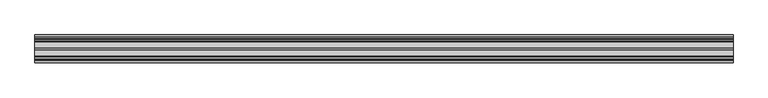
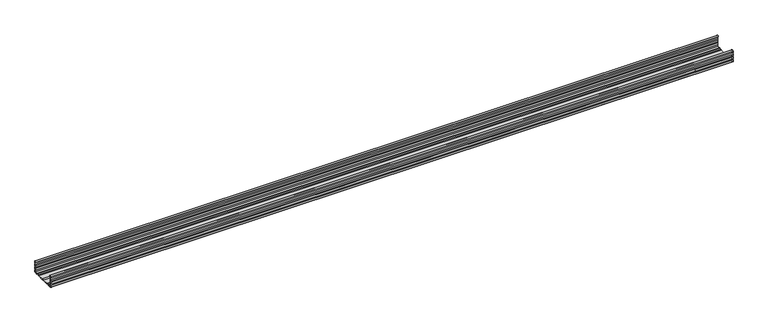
"""IFC4 building model written with IfcOpenShell, lengths in millimetres: proxy geometry, КНАУФ_Профильl ПП 60x27 : КНАУФ_Профильl ПП 60x27."""

from ifc_helpers import new_model, si_unit, point, frame, frame_2d, origin, origin_2d, place, context, project, spatial, polyline, circle_curve, trimmed, segment, composite_curve, outline, extrude, source, transform, mapped, element, save


def mechanical_equipment_1e4b647e(model_context):
    return source(origin(), model_context, "Body", "SweptSolid", [
        extrude(outline(composite_curve([segment(polyline([(26.6623525, 24.93), (25.8623525, 24.93)]), True, "CONTINUOUS"), segment(trimmed(circle_curve(frame_2d((27.9311762, 24.93)), 2.0688238), [point((25.8623525, 24.93))], [point((30.0, 24.93))], False, "CARTESIAN"), True, "CONTINUOUS"), segment(polyline([(30.0, 24.93), (30.0, 21.5430149)]), True, "CONTINUOUS"), segment(trimmed(circle_curve(frame_2d((30.0, 20.25)), 1.2930149), [point((30.0, 21.5430149))], [point((30.0, 18.9569851))], True, "CARTESIAN"), True, "CONTINUOUS"), segment(polyline([(30.0, 18.9569851), (30.0, 14.7930149)]), True, "CONTINUOUS"), segment(trimmed(circle_curve(frame_2d((30.0, 13.5)), 1.2930149), [point((30.0, 14.7930149))], [point((30.0, 12.2069851))], True, "CARTESIAN"), True, "CONTINUOUS"), segment(polyline([(30.0, 12.2069851), (30.0, 8.0430149)]), True, "CONTINUOUS"), segment(trimmed(circle_curve(frame_2d((30.0, 6.75)), 1.2930149), [point((30.0, 8.0430149))], [point((30.0, 5.4569851))], True, "CARTESIAN"), True, "CONTINUOUS"), segment(polyline([(30.0, 5.4569851), (30.0, 1.2930149)]), True, "CONTINUOUS"), segment(trimmed(circle_curve(frame_2d((28.7069851, 1.2930149)), 1.2930149), [point((30.0, 1.2930149))], [point((28.7069851, 0.0))], False, "CARTESIAN"), True, "CONTINUOUS"), segment(polyline([(28.7069851, 0.0), (22.0489776, 0.0)]), True, "CONTINUOUS"), segment(trimmed(circle_curve(frame_2d((20.7668677, -0.1675758)), 1.2930149), [point((22.0489776, 0.0))], [point((20.7668677, 1.1254391))], True, "CARTESIAN"), True, "CONTINUOUS"), segment(polyline([(20.7668677, 1.1254391), (17.1471022, 1.1254391)]), True, "CONTINUOUS"), segment(trimmed(circle_curve(frame_2d((17.1471022, -0.1675758)), 1.2930149), [point((17.1471022, 1.1254391))], [point((15.8649924, 0.0))], True, "CARTESIAN"), True, "CONTINUOUS"), segment(polyline([(15.8649924, 0.0), (1.2930149, 0.0)]), True, "CONTINUOUS"), segment(trimmed(circle_curve(origin_2d(), 1.2930149), [point((1.2930149, 0.0))], [point((-1.2930149, 0.0))], True, "CARTESIAN"), True, "CONTINUOUS"), segment(polyline([(-1.2930149, 0.0), (-15.772435, 0.0)]), True, "CONTINUOUS"), segment(trimmed(circle_curve(frame_2d((-17.1471022, -0.2768239)), 1.402263), [point((-15.772435, 0.0))], [point((-17.1471022, 1.1254391))], True, "CARTESIAN"), True, "CONTINUOUS"), segment(polyline([(-17.1471022, 1.1254391), (-20.7668677, 1.1254391)]), True, "CONTINUOUS"), segment(trimmed(circle_curve(frame_2d((-20.7668677, -0.1675758)), 1.2930149), [point((-20.7668677, 1.1254391))], [point((-22.0489776, 0.0))], True, "CARTESIAN"), True, "CONTINUOUS"), segment(polyline([(-22.0489776, 0.0), (-28.7069851, 0.0)]), True, "CONTINUOUS"), segment(trimmed(circle_curve(frame_2d((-28.7069851, 1.2930149)), 1.2930149), [point((-28.7069851, 0.0))], [point((-30.0, 1.2930149))], False, "CARTESIAN"), True, "CONTINUOUS"), segment(polyline([(-30.0, 1.2930149), (-30.0, 5.4569851)]), True, "CONTINUOUS"), segment(trimmed(circle_curve(frame_2d((-30.0, 6.75)), 1.2930149), [point((-30.0, 5.4569851))], [point((-30.0, 8.0430149))], True, "CARTESIAN"), True, "CONTINUOUS"), segment(polyline([(-30.0, 8.0430149), (-30.0, 12.2069851)]), True, "CONTINUOUS"), segment(trimmed(circle_curve(frame_2d((-30.0, 13.5)), 1.2930149), [point((-30.0, 12.2069851))], [point((-30.0, 14.7930149))], True, "CARTESIAN"), True, "CONTINUOUS"), segment(polyline([(-30.0, 14.7930149), (-30.0, 18.9569851)]), True, "CONTINUOUS"), segment(trimmed(circle_curve(frame_2d((-30.0, 20.25)), 1.2930149), [point((-30.0, 18.9569851))], [point((-30.0, 21.5430149))], True, "CARTESIAN"), True, "CONTINUOUS"), segment(polyline([(-30.0, 21.5430149), (-30.0, 24.9997726)]), True, "CONTINUOUS"), segment(trimmed(circle_curve(frame_2d((-27.9311762, 24.93)), 2.07), [point((-30.0, 24.9997726))], [point((-25.8611762, 24.93))], False, "CARTESIAN"), True, "CONTINUOUS"), segment(polyline([(-25.8611762, 24.93), (-26.6611762, 24.93)]), True, "CONTINUOUS"), segment(trimmed(circle_curve(frame_2d((-27.9311762, 24.93)), 1.27), [point((-26.6611762, 24.93))], [point((-29.2, 24.9846466))], True, "CARTESIAN"), True, "CONTINUOUS"), segment(polyline([(-29.2, 24.9846466), (-29.2, 22.1840918)]), True, "CONTINUOUS"), segment(trimmed(circle_curve(frame_2d((-30.0, 20.25)), 2.0930149), [point((-29.2, 22.1840918))], [point((-29.2, 18.3159082))], False, "CARTESIAN"), True, "CONTINUOUS"), segment(polyline([(-29.2, 18.3159082), (-29.2, 15.4340918)]), True, "CONTINUOUS"), segment(trimmed(circle_curve(frame_2d((-30.0, 13.5)), 2.0930149), [point((-29.2, 15.4340918))], [point((-29.2, 11.5659082))], False, "CARTESIAN"), True, "CONTINUOUS"), segment(polyline([(-29.2, 11.5659082), (-29.2, 8.6840918)]), True, "CONTINUOUS"), segment(trimmed(circle_curve(frame_2d((-30.0, 6.75)), 2.0930149), [point((-29.2, 8.6840918))], [point((-29.2, 4.8159082))], False, "CARTESIAN"), True, "CONTINUOUS"), segment(polyline([(-29.2, 4.8159082), (-29.2, 0.8), (-22.6228064, 0.8)]), True, "CONTINUOUS"), segment(trimmed(circle_curve(frame_2d((-20.7668677, -0.1675758)), 2.0930149), [point((-22.6228064, 0.8))], [point((-20.7668677, 1.9254391))], False, "CARTESIAN"), True, "CONTINUOUS"), segment(polyline([(-20.7668677, 1.9254391), (-17.1471022, 1.9254391)]), True, "CONTINUOUS"), segment(trimmed(circle_curve(frame_2d((-17.1471022, -0.2768239)), 2.202263), [point((-17.1471022, 1.9254391))], [point((-15.2260576, 0.8))], False, "CARTESIAN"), True, "CONTINUOUS"), segment(polyline([(-15.2260576, 0.8), (-1.9340918, 0.8)]), True, "CONTINUOUS"), segment(trimmed(circle_curve(origin_2d(), 2.0930149), [point((-1.9340918, 0.8))], [point((1.9340918, 0.8))], False, "CARTESIAN"), True, "CONTINUOUS"), segment(polyline([(1.9340918, 0.8), (15.2911636, 0.8)]), True, "CONTINUOUS"), segment(trimmed(circle_curve(frame_2d((17.1471022, -0.1675758)), 2.0930149), [point((15.2911636, 0.8))], [point((17.1471022, 1.9254391))], False, "CARTESIAN"), True, "CONTINUOUS"), segment(polyline([(17.1471022, 1.9254391), (20.7668677, 1.9254391)]), True, "CONTINUOUS"), segment(trimmed(circle_curve(frame_2d((20.7668677, -0.1675758)), 2.0930149), [point((20.7668677, 1.9254391))], [point((22.6228064, 0.8))], False, "CARTESIAN"), True, "CONTINUOUS"), segment(polyline([(22.6228064, 0.8), (29.2, 0.8), (29.2, 4.8159082)]), True, "CONTINUOUS"), segment(trimmed(circle_curve(frame_2d((30.0, 6.75)), 2.0930149), [point((29.2, 4.8159082))], [point((29.2, 8.6840918))], False, "CARTESIAN"), True, "CONTINUOUS"), segment(polyline([(29.2, 8.6840918), (29.2, 11.5659082)]), True, "CONTINUOUS"), segment(trimmed(circle_curve(frame_2d((30.0, 13.5)), 2.0930149), [point((29.2, 11.5659082))], [point((29.2, 15.4340918))], False, "CARTESIAN"), True, "CONTINUOUS"), segment(polyline([(29.2, 15.4340918), (29.2, 18.3159082)]), True, "CONTINUOUS"), segment(trimmed(circle_curve(frame_2d((30.0, 20.25)), 2.0930149), [point((29.2, 18.3159082))], [point((29.2, 22.1840918))], False, "CARTESIAN"), True, "CONTINUOUS"), segment(polyline([(29.2, 22.1840918), (29.2, 24.93)]), True, "CONTINUOUS"), segment(trimmed(circle_curve(frame_2d((27.9311762, 24.93)), 1.2688238), [point((29.2, 24.93))], [point((26.6623525, 24.93))], True, "CARTESIAN"), True, "CONTINUOUS")], self_intersect=False)), frame((0.0, 0.0, 0.0), z_axis=(1.0, 0.0, 0.0), x_axis=(0.0, 1.0, 0.0)), (0.0, 0.0, 1.0), 1500.0),
    ])


if __name__ == "__main__":
    model = new_model("IFC4")
    model_context = context("Model", 3, world=origin())
    ifc_project = project(units=[si_unit("LENGTHUNIT", "METRE", prefix="MILLI")], contexts=[model_context])
    site = spatial("IfcSite", under=ifc_project)
    building = spatial("IfcBuilding", under=site)
    placement = place(None, origin())
    mechanical_equipment_shape = mechanical_equipment_1e4b647e(model_context)
    element("IfcBuildingElementProxy", 1, Name="КНАУФ_Профильl ПП 60x27 : КНАУФ_Профильl ПП 60x27", ObjectType="КНАУФ_Профильl ПП 60x27 : КНАУФ_Профильl ПП 60x27", at=placement, inside=building, context=model_context, shape_type="MappedRepresentation", body=[
        mapped(mechanical_equipment_shape, transform((0.0, 0.0, 0.0), x_axis=(1.0, 0.0, 0.0), y_axis=(0.0, 1.0, 0.0), z_axis=(0.0, 0.0, 1.0))),
    ])
    save(model, "model.ifc")
